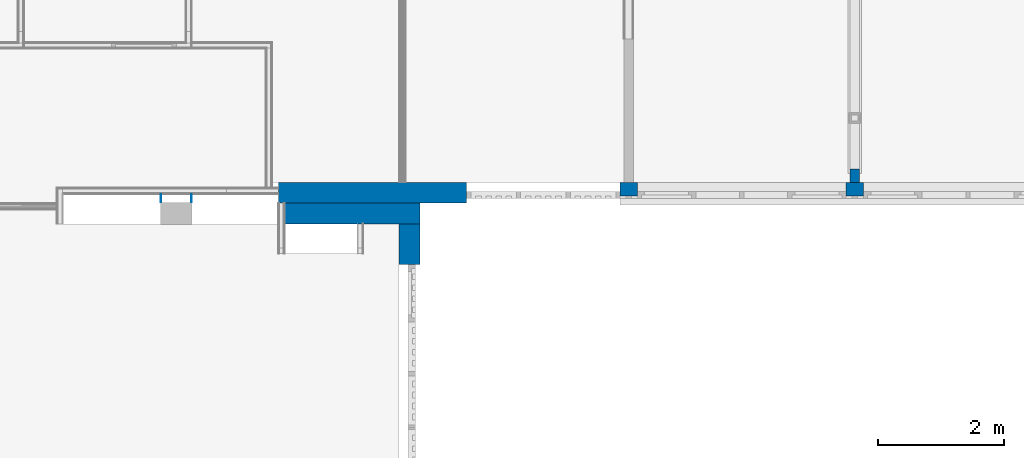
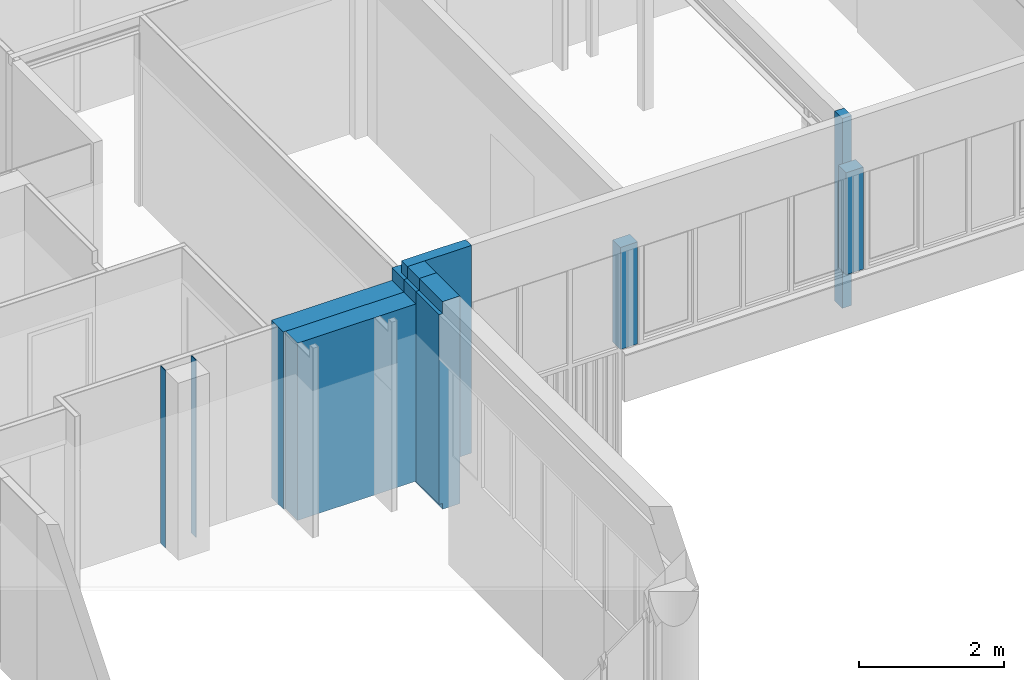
# One storey, part 45 of 99: 8 walls.
"""IFC2X3 building model written with IfcOpenShell, lengths in millimetres."""

from ifc_helpers import new_model, entity, si_unit, converted_unit, derived_unit, money_unit, direction, frame, origin_with_axes, place, context, subcontext, project, spatial, faceted_brep, material, type_object, element, save


model = new_model("IFC2X3")

# Units and contexts
model_context = context("Model", 3, precision=0.01, world=origin_with_axes(), true_north=direction((0.0, 1.0)))
body_context = subcontext(model_context, "Body", "Model", "MODEL_VIEW")
ifc_project = project(units=[si_unit("LENGTHUNIT", "METRE", prefix="MILLI"), si_unit("AREAUNIT", "SQUARE_METRE"), si_unit("VOLUMEUNIT", "CUBIC_METRE"), converted_unit("PLANEANGLEUNIT", "DEGREE", entity("IfcPlaneAngleMeasure", 0.0174532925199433), si_unit("PLANEANGLEUNIT", "RADIAN"), dimensions=[0, 0, 0, 0, 0, 0, 0]), money_unit("EUR"), converted_unit("TIMEUNIT", "Year", entity("IfcTimeMeasure", 31557600.0), si_unit("TIMEUNIT", "SECOND"), dimensions=[0, 0, 1, 0, 0, 0, 0]), si_unit("MASSUNIT", "GRAM", prefix="KILO"), si_unit("THERMODYNAMICTEMPERATUREUNIT", "DEGREE_CELSIUS"), si_unit("LUMINOUSINTENSITYUNIT", "LUMEN"), si_unit("ENERGYUNIT", "JOULE", prefix="MEGA"), derived_unit("THERMALCONDUCTANCEUNIT", [(si_unit("POWERUNIT", "WATT"), 1), (si_unit("LENGTHUNIT", "METRE"), -1), (si_unit("THERMODYNAMICTEMPERATUREUNIT", "KELVIN"), -1)]), derived_unit("SPECIFICHEATCAPACITYUNIT", [(si_unit("ENERGYUNIT", "JOULE"), 1), (si_unit("MASSUNIT", "GRAM", prefix="KILO"), -1), (si_unit("THERMODYNAMICTEMPERATUREUNIT", "KELVIN"), -1)]), derived_unit("MASSDENSITYUNIT", [(si_unit("MASSUNIT", "GRAM", prefix="KILO"), 1), (si_unit("VOLUMEUNIT", "CUBIC_METRE"), -1)])], contexts=[model_context])

# Site, building, storey
site_placement = place(None, origin_with_axes())
site = spatial("IfcSite", under=ifc_project, at=site_placement, Name="Site", CompositionType="ELEMENT")
building_placement = place(site_placement, origin_with_axes())
building = spatial("IfcBuilding", under=site, at=building_placement, Name="Naam gebouw", CompositionType="ELEMENT")
storey_placement = place(building_placement, frame((0.0, 0.0, 7650.0), z_axis=(0.0, 0.0, 1.0), x_axis=(1.0, 0.0, 0.0)))
storey = spatial("IfcBuildingStorey", under=building, at=storey_placement, Name="2e verdieping N", CompositionType="ELEMENT", Elevation=7650.0)

# Walls
ifc_material_1 = material(Name="ALG - CONSTRUCTIEF")
wall_type_1 = type_object("IfcWallType", Name="ALG - CONSTRUCTIEF 150", PredefinedType="NOTDEFINED")
wall_1_placement = place(storey_placement, frame((39599.99999999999, 10825.91242510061, -99.99999999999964), z_axis=(0.0, 0.0, 1.0), x_axis=(0.0, 1.0, 0.0)))
element("IfcWall", 1, at=wall_1_placement, inside=storey, type_object=wall_type_1, material=ifc_material_1, Name="_Wand-x", context=body_context, shape_type="Brep", body=[
    faceted_brep([(374.9999999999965, 75.00000000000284, 99.99999999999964), (374.9999999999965, 75.00000000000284, 3299.999999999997), (374.9999999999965, -75.00000000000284, 3299.999999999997), (374.9999999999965, -75.00000000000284, 99.99999999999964), (164.9999999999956, 75.00000000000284, 99.99999999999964), (164.9999999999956, 75.00000000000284, 3299.999999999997), (164.9999999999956, -75.00000000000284, 3299.999999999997), (164.9999999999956, -75.00000000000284, 99.99999999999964)], [[[0, 1, 2, 3]], [[4, 5, 1, 0]], [[5, 6, 2, 1]], [[3, 2, 6, 7]], [[4, 0, 3, 7]], [[7, 6, 5, 4]]]),
])
wall_type_2 = type_object("IfcWallType", Name="ALG - CONSTRUCTIEF 330", PredefinedType="NOTDEFINED")
wall_2_placement = place(storey_placement, frame((33422.5, 10990.91242510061, -99.99999999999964), z_axis=(0.0, 0.0, 1.0), x_axis=(-1.0, 0.0, 0.0)))
element("IfcWall", 2, at=wall_2_placement, inside=storey, type_object=wall_type_2, material=ifc_material_1, Name="_Wand-x", context=body_context, shape_type="Brep", body=[
    faceted_brep([(2997.500000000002, 0.0, 99.99999999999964), (2997.500000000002, 0.0, 3089.999999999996), (1077.029739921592, 0.0, 3089.999999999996), (1077.029739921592, 0.0, 3299.999999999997), (0.0, 0.0, 3299.999999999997), (0.0, 0.0, 99.99999999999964), (112.1523492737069, 0.0, 99.99999999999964), (112.1523492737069, 0.0, 0.0), (1022.500000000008, 0.0, 0.0), (1022.500000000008, 0.0, 99.99999999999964), (2997.500000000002, 330.0000000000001, 99.99999999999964), (2997.500000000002, 330.0000000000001, 3089.999999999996), (1077.029739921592, 330.0000000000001, 3089.999999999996), (1077.029739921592, 330.0000000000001, 3299.999999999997), (1022.500000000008, 330.0000000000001, 3299.999999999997), (1022.500000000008, 162.9517185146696, 3299.999999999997), (112.1523492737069, 162.9517185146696, 3299.999999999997), (112.1523492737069, 168.1794439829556, 3299.999999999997), (0.0, 168.1794439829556, 3299.999999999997), (0.0, 168.1794439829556, 3500.0), (0.0, 330.0000000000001, 3500.0), (0.0, 330.0000000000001, 0.0), (0.0, 146.0000000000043, 0.0), (0.0, 146.0000000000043, 99.99999999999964), (112.1523492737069, 146.0000000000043, 99.99999999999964), (112.1523492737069, 146.0000000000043, 0.0), (1022.500000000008, 330.0000000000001, 0.0), (1022.500000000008, 330.0000000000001, 99.99999999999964), (1022.500000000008, 330.0000000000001, 3500.0), (1022.500000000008, 162.9517185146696, 3500.0), (112.1523492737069, 162.9517185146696, 3500.0), (112.1523492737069, 168.1794439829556, 3500.0)], [[[0, 1, 2, 3, 4, 5, 6, 7, 8, 9]], [[10, 11, 1, 0]], [[12, 2, 1, 11]], [[12, 13, 3, 2]], [[4, 3, 13, 14, 15, 16, 17, 18]], [[4, 18, 19, 20, 21, 22, 23, 5]], [[24, 6, 5, 23]], [[25, 7, 6, 24]], [[21, 26, 8, 7, 25, 22]], [[27, 9, 8, 26]], [[10, 0, 9, 27]], [[13, 12, 11, 10, 27, 26, 21, 20, 28, 14]], [[14, 28, 29, 15]], [[16, 15, 29, 30]], [[16, 30, 31, 17]], [[17, 31, 19, 18]], [[30, 29, 28, 20, 19, 31]], [[24, 23, 22, 25]]]),
])
wall_3_placement = place(storey_placement, frame((32345.47026007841, 10660.91242510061, -99.99999999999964), z_axis=(0.0, 0.0, 1.0), x_axis=(0.0, -1.0, 0.0)))
element("IfcWall", 3, at=wall_3_placement, inside=storey, type_object=wall_type_2, material=ifc_material_1, Name="_Wand-x", context=body_context, shape_type="Brep", body=[
    faceted_brep([(330.0000000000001, 0.0, 99.99999999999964), (330.0000000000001, 0.0, 3299.999999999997), (330.0000000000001, 54.52973992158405, 3299.999999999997), (330.0000000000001, 54.52973992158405, 3500.0), (330.0000000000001, 329.9999999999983, 3500.0), (330.0000000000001, 329.9999999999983, 0.0), (330.0000000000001, 54.52973992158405, 0.0), (330.0000000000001, 54.52973992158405, 99.99999999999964), (974.962735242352, 0.0, 99.99999999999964), (974.962735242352, 0.0, 3299.999999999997), (974.962735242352, 54.52973992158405, 3299.999999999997), (974.962735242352, 54.52973992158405, 3500.0), (974.962735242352, 329.9999999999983, 3500.0), (974.962735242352, 329.9999999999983, 0.0), (974.962735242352, 54.52973992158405, 0.0), (974.962735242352, 54.52973992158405, 99.99999999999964)], [[[0, 1, 2, 3, 4, 5, 6, 7]], [[8, 9, 1, 0]], [[10, 2, 1, 9]], [[10, 11, 3, 2]], [[4, 3, 11, 12]], [[13, 5, 4, 12]], [[13, 14, 6, 5]], [[15, 7, 6, 14]], [[8, 0, 7, 15]], [[11, 10, 9, 8, 15, 14, 13, 12]]]),
])
wall_4_placement = place(storey_placement, frame((32675.4702600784, 10660.91242510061, -99.99999999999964), z_axis=(0.0, 0.0, 1.0), x_axis=(-1.0, 0.0, 0.0)))
element("IfcWall", 4, at=wall_4_placement, inside=storey, type_object=wall_type_2, material=ifc_material_1, Name="_Wand-x", context=body_context, shape_type="Brep", body=[
    faceted_brep([(2218.470260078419, 0.0, 99.99999999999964), (2218.470260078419, 0.0, 3089.999999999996), (329.9999999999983, 0.0, 3089.999999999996), (329.9999999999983, 0.0, 3299.999999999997), (275.4702600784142, 0.0, 3299.999999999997), (275.4702600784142, 0.0, 3500.0), (0.0, 0.0, 3500.0), (0.0, 0.0, 0.0), (275.4702600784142, 0.0, 0.0), (275.4702600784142, 0.0, 99.99999999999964), (2218.470260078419, 330.0000000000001, 99.99999999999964), (2218.470260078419, 330.0000000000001, 3089.999999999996), (329.9999999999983, 330.0000000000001, 3089.999999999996), (329.9999999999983, 330.0000000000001, 3299.999999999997), (275.4702600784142, 330.0000000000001, 3299.999999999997), (275.4702600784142, 330.0000000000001, 3500.0), (0.0, 330.0000000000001, 3500.0), (0.0, 330.0000000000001, 0.0), (275.4702600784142, 330.0000000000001, 0.0), (275.4702600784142, 330.0000000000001, 99.99999999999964)], [[[0, 1, 2, 3, 4, 5, 6, 7, 8, 9]], [[10, 11, 1, 0]], [[12, 2, 1, 11]], [[12, 13, 3, 2]], [[4, 3, 13, 14]], [[14, 15, 5, 4]], [[6, 5, 15, 16]], [[6, 16, 17, 7]], [[17, 18, 8, 7]], [[19, 9, 8, 18]], [[10, 0, 9, 19]], [[13, 12, 11, 10, 19, 18, 17, 16, 15, 14]]]),
])
ifc_material_2 = material(Name="Gipsplaat")
wall_type_3 = type_object("IfcWallType", Name="Metalstud 100 enkel 100", PredefinedType="NOTDEFINED")
wall_5_placement = place(storey_placement, frame((28550.0, 10673.41242510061, 0.0), z_axis=(0.0, 0.0, 1.0), x_axis=(0.0, 1.0, 0.0)))
element("IfcWall", 5, at=wall_5_placement, inside=storey, type_object=wall_type_3, material=ifc_material_2, Name="_Wand-x", context=body_context, shape_type="Brep", body=[
    faceted_brep([(132.5000000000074, -12.49999999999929, 0.0), (132.5000000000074, 0.0, 0.0), (132.5000000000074, 0.0, 2989.999999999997), (132.5000000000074, -12.49999999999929, 2989.999999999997), (0.0, -12.49999999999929, 0.0), (0.0, 0.0, 0.0), (0.0, 0.0, 2989.999999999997), (0.0, -12.49999999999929, 2989.999999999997)], [[[0, 1, 2, 3]], [[0, 4, 5, 1]], [[1, 5, 6, 2]], [[2, 6, 7, 3]], [[4, 0, 3, 7]], [[5, 4, 7, 6]]]),
])
wall_6_placement = place(storey_placement, frame((29050.0, 10673.41242510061, 0.0), z_axis=(0.0, 0.0, 1.0), x_axis=(0.0, 1.0, 0.0)))
element("IfcWall", 6, at=wall_6_placement, inside=storey, type_object=wall_type_3, material=ifc_material_2, Name="_Wand-x", context=body_context, shape_type="Brep", body=[
    faceted_brep([(132.5000000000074, 0.0, 0.0), (132.5000000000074, 12.49999999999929, 0.0), (132.5000000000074, 12.49999999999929, 2989.999999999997), (132.5000000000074, 0.0, 2989.999999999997), (0.0, 0.0, 0.0), (0.0, 12.49999999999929, 0.0), (0.0, 12.49999999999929, 2989.999999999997), (0.0, 0.0, 2989.999999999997)], [[[0, 1, 2, 3]], [[0, 4, 5, 1]], [[1, 5, 6, 2]], [[2, 6, 7, 3]], [[4, 0, 3, 7]], [[5, 4, 7, 6]]]),
])
ifc_material_3 = material(Name="ALG - GEVEL")
wall_type_4 = type_object("IfcWallType", Name="ALG - GEVEL 260", PredefinedType="NOTDEFINED")
wall_7_placement = place(storey_placement, frame((36137.5, 10730.9124251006, 720.0000000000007), z_axis=(0.0, 0.0, 1.0), x_axis=(-1.0, 0.0, 0.0)))
element("IfcWall", 7, at=wall_7_placement, inside=storey, type_object=wall_type_4, material=ifc_material_3, Name="_Wand-x", context=body_context, shape_type="Brep", body=[
    faceted_brep([(275.0000000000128, -44.00000000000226, 1720.000000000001), (0.0, -44.00000000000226, 1720.000000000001), (0.0, -259.9999999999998, 1719.999999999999), (275.0000000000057, -259.9999999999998, 1719.999999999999), (275.0000000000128, -44.00000000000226, 0.0), (0.0, -44.00000000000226, 0.0), (0.0, -259.9999999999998, 0.0), (275.0000000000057, -259.9999999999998, 0.0)], [[[0, 1, 2, 3]], [[0, 4, 5, 1]], [[2, 1, 5, 6]], [[3, 2, 6, 7]], [[7, 4, 0, 3]], [[5, 4, 7, 6]]]),
])
wall_8_placement = place(storey_placement, frame((39737.50000000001, 10730.9124251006, 720.0000000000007), z_axis=(0.0, 0.0, 1.0), x_axis=(-1.0, 0.0, 0.0)))
element("IfcWall", 8, at=wall_8_placement, inside=storey, type_object=wall_type_4, material=ifc_material_3, Name="_Wand-x", context=body_context, shape_type="Brep", body=[
    faceted_brep([(275.0000000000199, -44.00000000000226, 1720.000000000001), (0.0, -44.00000000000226, 1720.000000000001), (0.0, -259.9999999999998, 1719.999999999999), (275.0000000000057, -259.9999999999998, 1719.999999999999), (275.0000000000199, -44.00000000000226, 0.0), (0.0, -44.00000000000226, 0.0), (0.0, -259.9999999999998, 0.0), (275.0000000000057, -259.9999999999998, 0.0)], [[[0, 1, 2, 3]], [[0, 4, 5, 1]], [[2, 1, 5, 6]], [[3, 2, 6, 7]], [[7, 4, 0, 3]], [[5, 4, 7, 6]]]),
])

save(model, "model.ifc")
